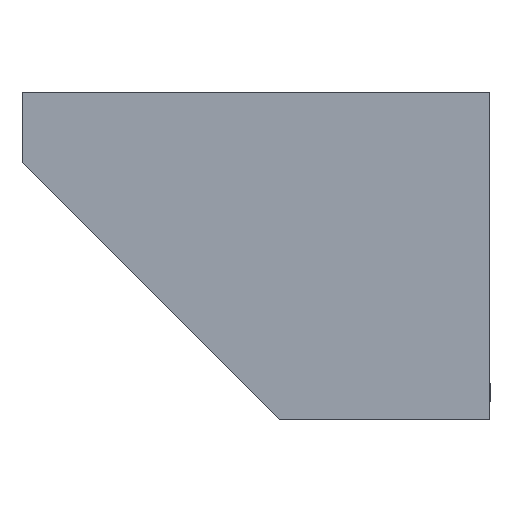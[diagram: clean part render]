
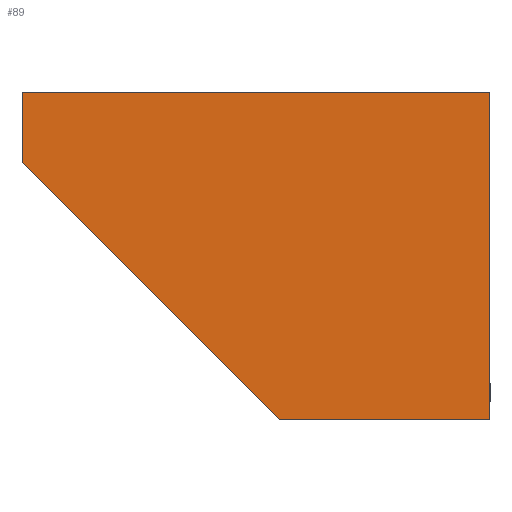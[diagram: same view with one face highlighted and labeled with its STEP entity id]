
A CAD part, top view. The second image highlights one B-rep face of the part: STEP entity #89.
In plain terms, the highlighted planar face has unit normal (0, 0, 1).
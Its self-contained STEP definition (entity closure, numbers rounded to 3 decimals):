
#89=ADVANCED_FACE('',(#291),#293,.T.);
#291=FACE_BOUND('',#292,.T.);
#292=EDGE_LOOP('',(#455,#456,#457,#458,#459));
#293=PLANE('',#294);
#294=AXIS2_PLACEMENT_3D('',#295,#296,#297);
#295=CARTESIAN_POINT('',(0.,0.,14.));
#296=DIRECTION('',(0.,0.,1.));
#297=DIRECTION('',(-1.,0.,0.));
#455=ORIENTED_EDGE('',*,*,#511,.T.);
#456=ORIENTED_EDGE('',*,*,#512,.T.);
#457=ORIENTED_EDGE('',*,*,#497,.T.);
#458=ORIENTED_EDGE('',*,*,#507,.T.);
#459=ORIENTED_EDGE('',*,*,#513,.T.);
#497=EDGE_CURVE('',#530,#528,#531,.T.);
#507=EDGE_CURVE('',#528,#546,#548,.T.);
#511=EDGE_CURVE('',#555,#556,#557,.T.);
#512=EDGE_CURVE('',#556,#530,#558,.T.);
#513=EDGE_CURVE('',#546,#555,#559,.T.);
#528=VERTEX_POINT('',#585);
#530=VERTEX_POINT('',#589);
#531=LINE('',#590,#591);
#546=VERTEX_POINT('',#626);
#548=LINE('',#630,#631);
#555=VERTEX_POINT('',#648);
#556=VERTEX_POINT('',#649);
#557=LINE('',#650,#651);
#558=LINE('',#653,#654);
#559=LINE('',#656,#657);
#585=CARTESIAN_POINT('',(0.,0.,14.));
#589=CARTESIAN_POINT('',(0.,-140.,14.));
#590=CARTESIAN_POINT('',(0.,-140.,14.));
#591=VECTOR('',#592,1.);
#592=DIRECTION('',(0.,1.,0.));
#626=CARTESIAN_POINT('',(-200.,0.,14.));
#630=CARTESIAN_POINT('',(0.,0.,14.));
#631=VECTOR('',#632,1.);
#632=DIRECTION('',(-1.,0.,0.));
#648=CARTESIAN_POINT('',(-200.,-30.,14.));
#649=CARTESIAN_POINT('',(-90.,-140.,14.));
#650=CARTESIAN_POINT('',(-200.,-30.,14.));
#651=VECTOR('',#652,1.);
#652=DIRECTION('',(0.707,-0.707,0.));
#653=CARTESIAN_POINT('',(-90.,-140.,14.));
#654=VECTOR('',#655,1.);
#655=DIRECTION('',(1.,0.,0.));
#656=CARTESIAN_POINT('',(-200.,0.,14.));
#657=VECTOR('',#658,1.);
#658=DIRECTION('',(0.,-1.,0.));
